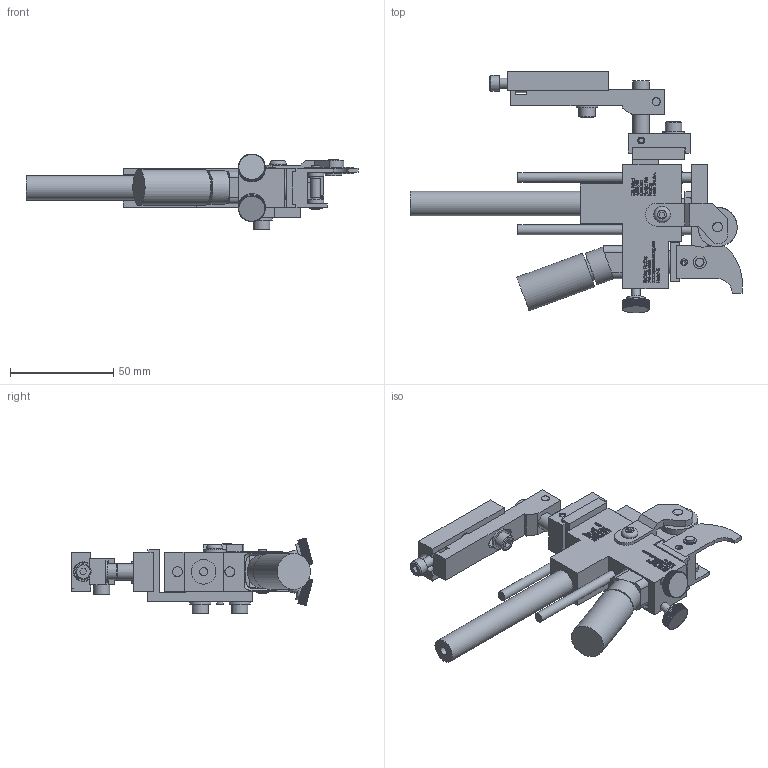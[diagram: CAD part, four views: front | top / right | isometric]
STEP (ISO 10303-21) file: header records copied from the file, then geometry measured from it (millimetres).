
FILE_DESCRIPTION((''),'2;1');
FILE_NAME('C:\Documents and Settings\Ron\My Documents\Inventor\Sprinter Drawing\Machines in Inventor\Model 44\Dot\3-eight\Std\Brkt\Ret\Model 44 STD .375 Dia Dot Ret w brkt.stp','2009-01-14T14:22:39',('Ron'),(''),'Autodesk Inventor 2008','Autodesk Inventor 2008','');
FILE_SCHEMA(('AUTOMOTIVE_DESIGN { 1 0 10303 214 1 1 1 1 }'));
Length unit declared in the file: inch
Products named in the file (1): Model 44 STD .375 Dia Dot Ret w brkt
Bounding box: 161 x 117.12 x 36.82 mm (x, y, z)
Volume: 103876.2 mm3; surface area: 50968.7 mm2
Topology: 382 solids, 382 shells, 6192 faces, 15377 edges, 9504 vertices
Faces by surface type: plane 4347, bspline 1320, cylinder 471, cone 48, torus 6
Full cylindrical faces by diameter (mm): 3.175 x4, 3.302 x1, 3.962 x1, 4.064 x7, 4.166 x1, 4.699 x1, 4.75 x4, 4.775 x1, 4.826 x7, 5.144 x1, 5.156 x5, 5.207 x2, 5.41 x2, 6.096 x1, 6.274 x2, 7.239 x1, 7.62 x1, 7.925 x7, 7.938 x1, 8.128 x1, 9.017 x1, 9.525 x3, 10.312 x4, 10.922 x1, 11.036 x1, 11.303 x1, 11.938 x2, 12.522 x1, 14.478 x1, 16.256 x1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
Entity records: 197228 total; most frequent: CARTESIAN_POINT 54044, ORIENTED_EDGE 30302, DIRECTION 23515, EDGE_CURVE 15151, VECTOR 11387, LINE 11387, VERTEX_POINT 9438, EDGE_LOOP 6753
